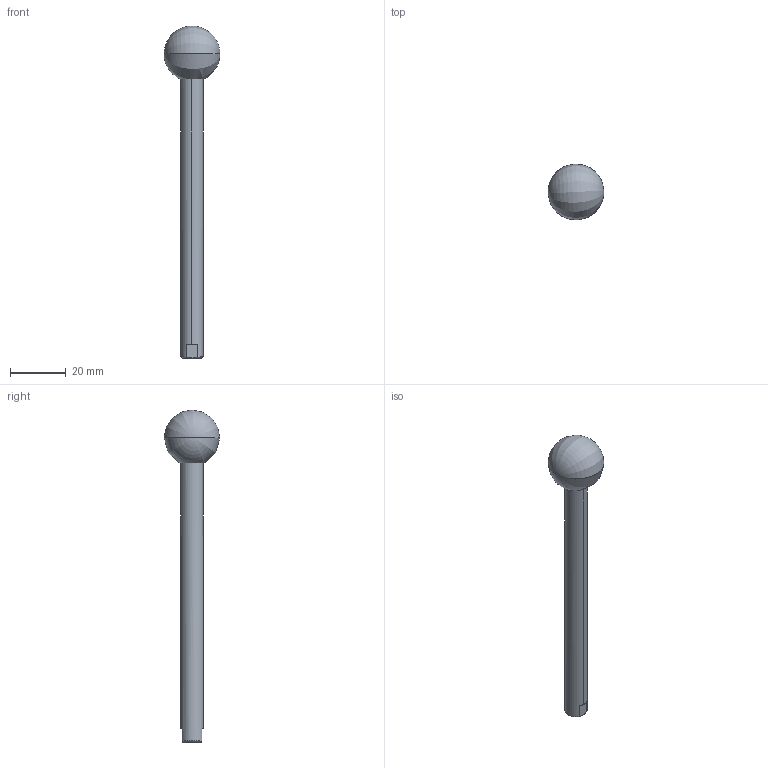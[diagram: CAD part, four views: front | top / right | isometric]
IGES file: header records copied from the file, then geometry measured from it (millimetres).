
Start section: SolidWorks IGES file using analytic representation for surfaces
Global section: file name: X:\11_SW2020-Inv2020\00_全2021-11新製品まで\q\QLRCS-08100\qlrcs-08100.IGS; native system: SolidWorks 2020; preprocessor: SolidWorks 2020; author: ImaoCorp; date: 211021.172022; units: millimetre
Bounding box: 19.97 x 20 x 118.99 mm (x, y, z)
Surface area: 3857.1 mm2 (no closed solid volume)
Topology: 0 solids, 0 shells, 17 faces, 276 edges, 274 vertices
Faces by surface type: revolution 10, bspline 7
